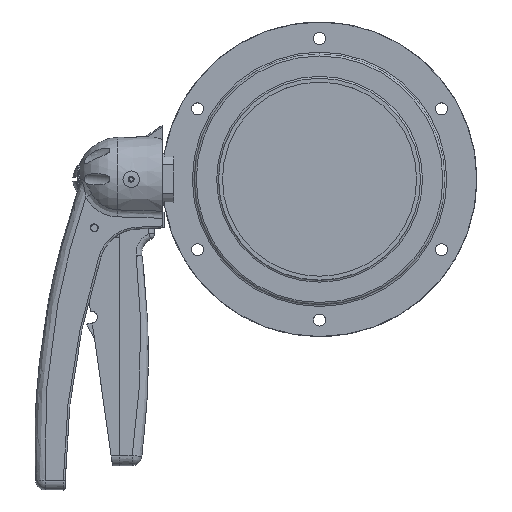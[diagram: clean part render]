
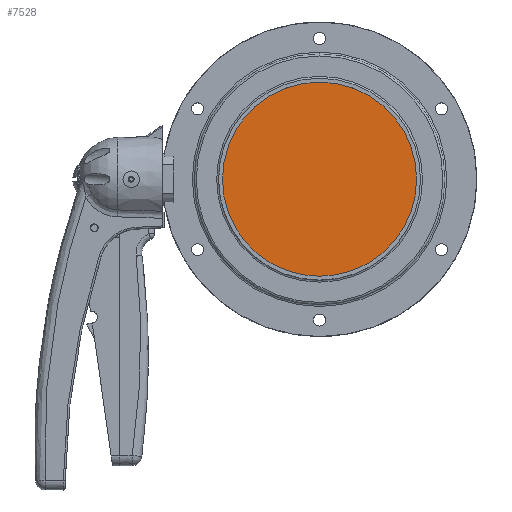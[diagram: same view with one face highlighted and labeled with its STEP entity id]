
A CAD part, top view. The second image highlights one B-rep face of the part: STEP entity #7528.
In plain terms, the highlighted planar face has unit normal (0, 0, 1).
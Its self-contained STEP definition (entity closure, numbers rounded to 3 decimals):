
#611=PLANE('',#8075);
#1039=FACE_OUTER_BOUND('',#1472,.T.);
#1472=EDGE_LOOP('',(#5239,#5240));
#3023=CIRCLE('',#8073,50.);
#3024=CIRCLE('',#8074,50.);
#3330=VERTEX_POINT('',#10762);
#3331=VERTEX_POINT('',#10764);
#4072=EDGE_CURVE('',#3331,#3330,#3023,.T.);
#4073=EDGE_CURVE('',#3330,#3331,#3024,.T.);
#5239=ORIENTED_EDGE('',*,*,#4072,.T.);
#5240=ORIENTED_EDGE('',*,*,#4073,.T.);
#7528=ADVANCED_FACE('',(#1039),#611,.T.);
#8073=AXIS2_PLACEMENT_3D('',#10765,#8837,#8838);
#8074=AXIS2_PLACEMENT_3D('',#10766,#8839,#8840);
#8075=AXIS2_PLACEMENT_3D('',#10767,#8841,#8842);
#8837=DIRECTION('center_axis',(0.,0.,1.));
#8838=DIRECTION('ref_axis',(0.,-1.,0.));
#8839=DIRECTION('center_axis',(0.,0.,1.));
#8840=DIRECTION('ref_axis',(0.,-1.,0.));
#8841=DIRECTION('center_axis',(0.,0.,1.));
#8842=DIRECTION('ref_axis',(1.,0.,0.));
#10762=CARTESIAN_POINT('',(0.,50.,25.293));
#10764=CARTESIAN_POINT('',(0.,-50.,25.293));
#10765=CARTESIAN_POINT('Origin',(0.,0.,25.293));
#10766=CARTESIAN_POINT('Origin',(0.,0.,25.293));
#10767=CARTESIAN_POINT('Origin',(0.,-25.,25.293));
